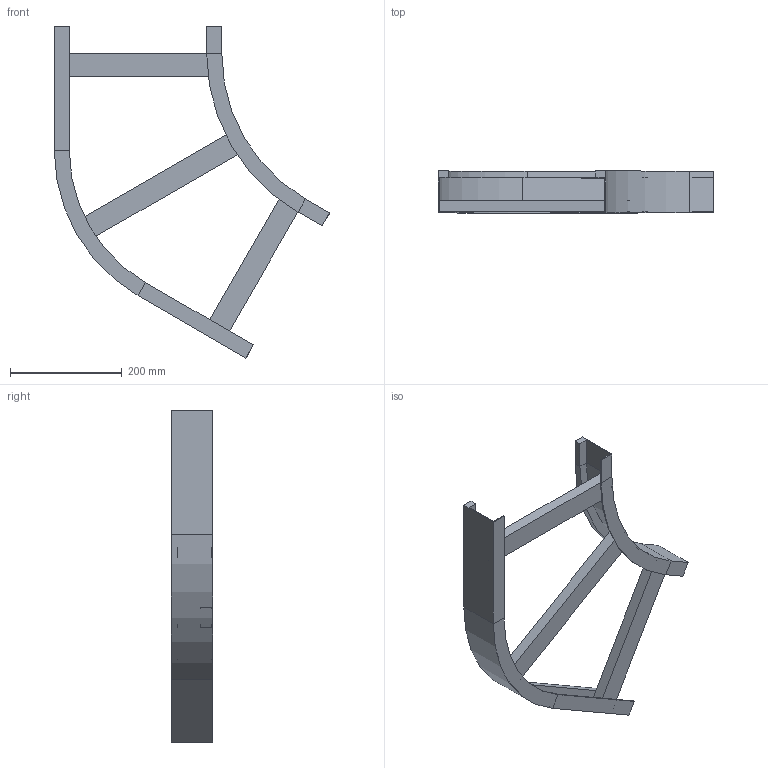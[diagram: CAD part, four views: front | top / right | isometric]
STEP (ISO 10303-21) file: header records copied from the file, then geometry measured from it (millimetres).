
FILE_DESCRIPTION (( 'STEP AP214' ), '1' );
FILE_NAME ('B2_13B3C300.step', '2025-02-21T15:21:42', ( '' ), ( '' ), 'SwSTEP 2.0', 'SolidWorks 2023', '' );
FILE_SCHEMA (( 'AUTOMOTIVE_DESIGN' ));
Length unit declared in the file: millimetre
Products named in the file (5): B2_LONGH.INTERNO 60°_H75_R300; TRAVERSINO_300; B2_13B3C300; TRAVERSINO_L342; B2_LONGH.ESTERNO 60°_H75_R300+300
Assembly tree (5 placements, depth 2):
  B2_13B3C300
    B2_LONGH.INTERNO 60°_H75_R300
    B2_LONGH.ESTERNO 60°_H75_R300+300
    TRAVERSINO_300  x2
    TRAVERSINO_L342
Bounding box: 493.3 x 75 x 594.62 mm (x, y, z)
Volume: 1217033.6 mm3; surface area: 396678 mm2
Topology: 5 solids, 5 shells, 70 faces, 148 edges, 88 vertices
Faces by surface type: plane 62, cylinder 8
Entity records: 1822 total; most frequent: DIRECTION 296, CARTESIAN_POINT 288, ORIENTED_EDGE 272, EDGE_CURVE 136, VECTOR 120, LINE 120, AXIS2_PLACEMENT_3D 88, VERTEX_POINT 80
